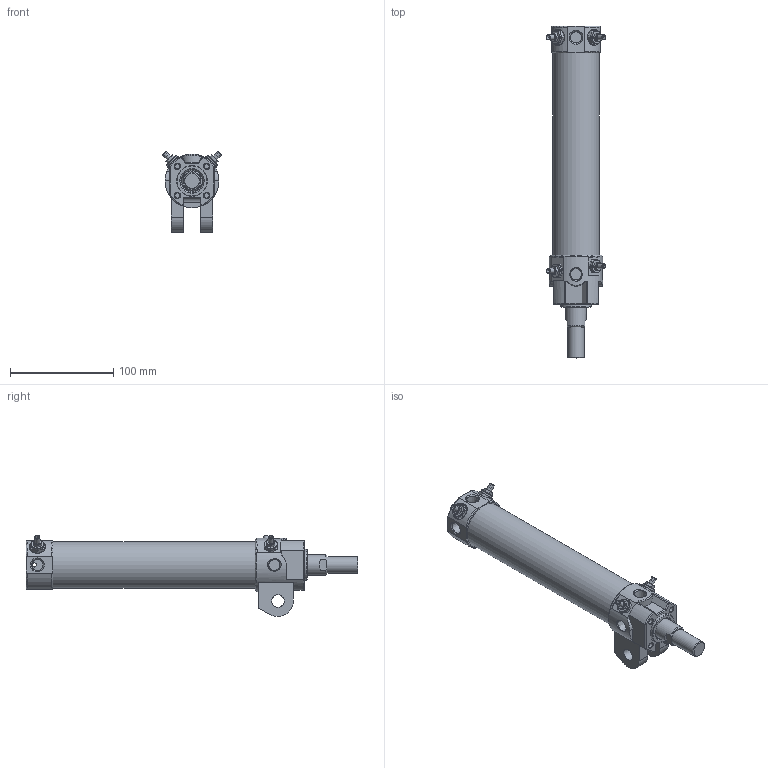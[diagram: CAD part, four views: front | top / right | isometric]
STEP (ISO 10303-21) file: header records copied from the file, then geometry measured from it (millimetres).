
FILE_DESCRIPTION((''),'2;1');
FILE_NAME('I:\3D電子目錄\氣缸\DCK\DCK\DCK-1A-40x150.stp','2008-02-25T15:53:22',('Administrator'),(''),'Autodesk Inventor 11','Autodesk Inventor 11','');
FILE_SCHEMA(('AUTOMOTIVE_DESIGN { 1 0 10303 214 1 1 1 1 }'));
Length unit declared in the file: millimetre
Products named in the file (1): DCK-1A-40x100
Bounding box: 57.13 x 321.5 x 78.56 mm (x, y, z)
Volume: 212488.7 mm3; surface area: 106303.4 mm2
Topology: 11 solids, 11 shells, 524 faces, 1220 edges, 764 vertices
Faces by surface type: bspline 161, plane 148, cylinder 127, cone 59, torus 27, sphere 2
Full cylindrical faces by diameter (mm): 2 x1, 3 x3, 3.8 x2, 4 x4, 4.6 x2, 5 x6, 5.1 x4, 5.2 x2, 7 x1, 7.25 x1, 8 x2, 8.3 x1, 10 x2, 12 x2, 12.8 x2, 16 x2, 20 x1, 21 x1, 22 x3, 23 x1, 24.7 x1, 26 x1, 28 x1, 29 x1, 30 x1, 33 x1, 40 x1, 42 x2, 45 x1, 52 x1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
Entity records: 25520 total; most frequent: CARTESIAN_POINT 15272, ORIENTED_EDGE 2104, DIRECTION 1851, EDGE_CURVE 1052, AXIS2_PLACEMENT_3D 764, EDGE_LOOP 730, VERTEX_POINT 724, FACE_OUTER_BOUND 522
